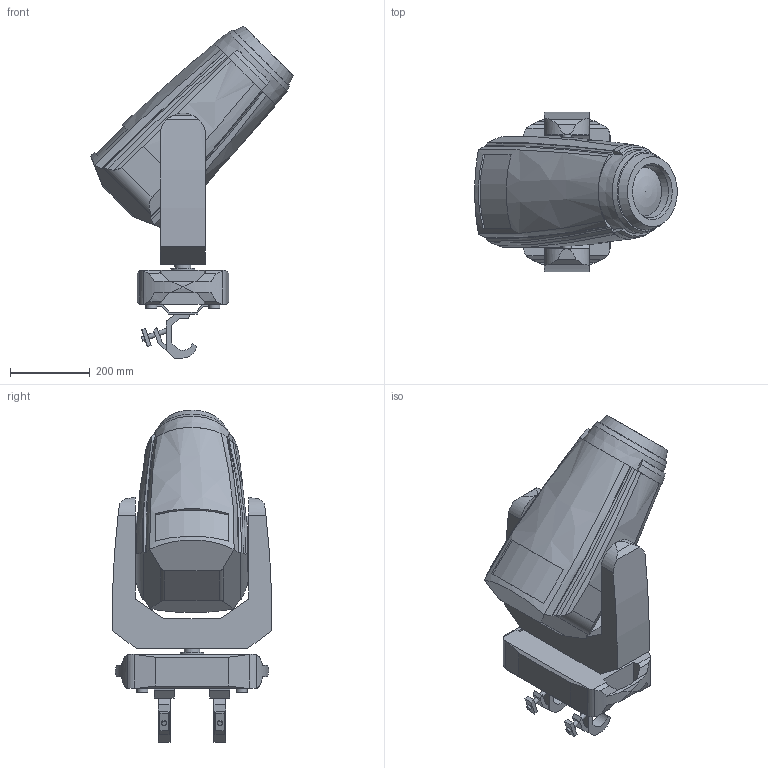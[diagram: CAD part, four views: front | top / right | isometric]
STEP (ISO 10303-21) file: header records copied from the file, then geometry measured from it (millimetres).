
FILE_DESCRIPTION(/* description */ ('Unknown'),/* implementation_level */ '2;1');
FILE_NAME(/* name */ '3D_RobinT1',/* time_stamp */ '2018-11-07T15:01:18+01:00',/* author */ ('Unknown'),/* organization */ ('Unknown'),/* preprocessor_version */ 'ST-DEVELOPER v16.7',/* originating_system */ 'DEX',/* authorisation */ $);
FILE_SCHEMA (('AUTOMOTIVE_DESIGN {1 0 10303 214 3 1 1}'));
Length unit declared in the file: millimetre
Products named in the file (7): 3D-T1; MP_base; T1-Arm; T1-Head; Omega_SlimClamp; Omega+SlimClamp; Clamp Doughty Slimline QT
Assembly tree (7 placements, depth 3):
  3D-T1
    MP_base
    T1-Arm
    T1-Head
    Omega_SlimClamp  x2
      Omega+SlimClamp
      Clamp Doughty Slimline QT
Bounding box: 507.83 x 399.48 x 832.51 mm (x, y, z)
Volume: 39916951.1 mm3; surface area: 1261257 mm2
Topology: 7 solids, 7 shells, 283 faces, 760 edges, 506 vertices
Faces by surface type: plane 182, cylinder 62, bspline 26, cone 12, torus 1
Full cylindrical faces by diameter (mm): 11 x8, 12 x8, 13 x2, 22 x1, 22.229 x1, 28 x4, 40 x1, 60 x1
Entity records: 8319 total; most frequent: CARTESIAN_POINT 2590, ORIENTED_EDGE 1176, DIRECTION 1066, EDGE_CURVE 588, VERTEX_POINT 403, AXIS2_PLACEMENT_3D 375, LINE 316, VECTOR 316
